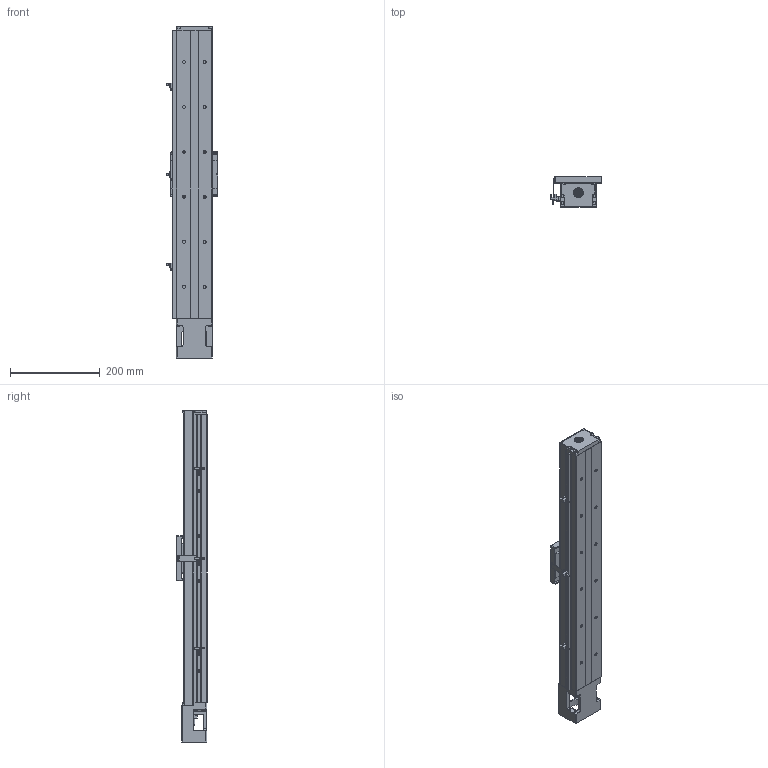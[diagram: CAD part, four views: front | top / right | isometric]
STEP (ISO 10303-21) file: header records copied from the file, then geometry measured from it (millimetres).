
FILE_DESCRIPTION (( 'STEP AP203' ), '1' );
FILE_NAME ('GKAC4580-500-12N-P10-CPXXX-網站用圖.STEP', '2023-04-13T09:16:52', ( '' ), ( '' ), 'SwSTEP 2.0', 'SolidWorks 2019', '' );
FILE_SCHEMA (( 'CONFIG_CONTROL_DESIGN' ));
Length unit declared in the file: millimetre
Products named in the file (4): Group2^GKAC4580-500-12N-P10-CPXXX_defeature-網站用圖_GMT; Group1^GKAC4580-500-12N-P10-CPXXX_defeature-網站用圖_GMT; GKA4580-500-SP-1^GKAC4580-500-12N-P10-CPXXX_defeature-網站用圖_GMT; GKAC4580-500-12N-P10-CPXXX-網站用圖
Assembly tree (3 placements, depth 2):
  GKAC4580-500-12N-P10-CPXXX-網站用圖
    Group1^GKAC4580-500-12N-P10-CPXXX_defeature-網站用圖_GMT
    Group2^GKAC4580-500-12N-P10-CPXXX_defeature-網站用圖_GMT
    GKA4580-500-SP-1^GKAC4580-500-12N-P10-CPXXX_defeature-網站用圖_GMT
Bounding box: 114.4 x 67 x 738 mm (x, y, z)
Volume: 1655836.3 mm3; surface area: 537817.7 mm2
Topology: 9 solids, 22 shells, 2372 faces, 6288 edges, 3921 vertices
Faces by surface type: plane 1125, cylinder 731, torus 242, cone 206, sphere 50, bspline 18
Entity records: 87614 total; most frequent: CARTESIAN_POINT 27738, DIRECTION 12950, ORIENTED_EDGE 12378, EDGE_CURVE 6189, AXIS2_PLACEMENT_3D 4870, VERTEX_POINT 3902, VECTOR 3210, LINE 3210
